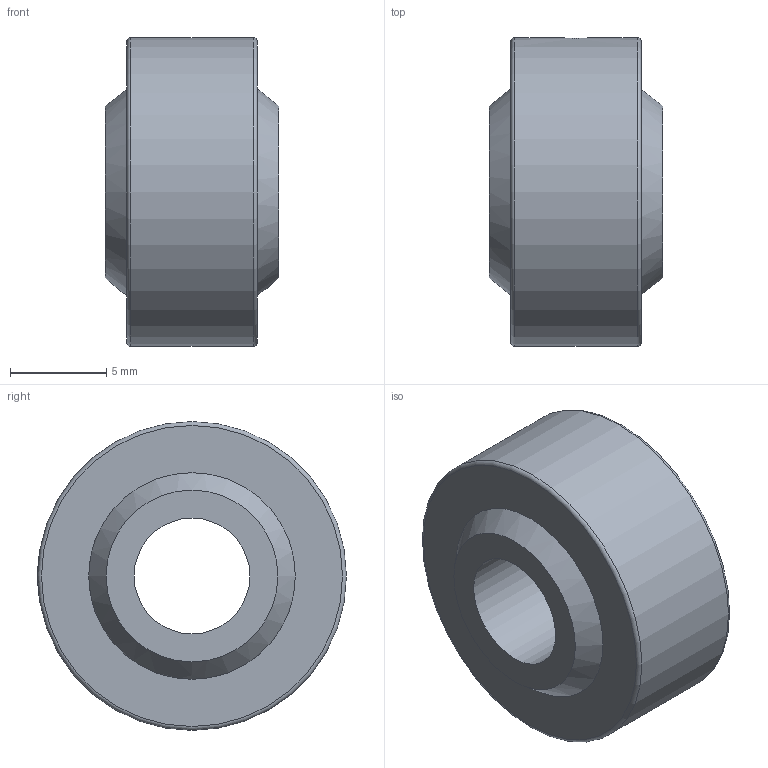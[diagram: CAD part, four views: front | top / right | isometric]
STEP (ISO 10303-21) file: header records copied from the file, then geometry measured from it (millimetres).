
FILE_DESCRIPTION( ( 'STEP AP203' ), '1' );
FILE_NAME( 'C:/Temp/Ganter_Step_05_03_2020/data/3_6/gn_648_8/gn_648_8_n/Ball joint GN 648.8-6-16-N.stp', '2020-03-12T14:14:23', ( 'License CC BY-ND 4.0' ), ( 'CADENAS' ), ' ', 'PARTsolutions', ' ' );
FILE_SCHEMA( ( 'CONFIG_CONTROL_DESIGN' ) );
Length unit declared in the file: millimetre
Products named in the file (3): Ball joint GN 648.8-6-16-N; _Ball joint GN 648.8-6-16-N-2; _Ball joint GN 648.8-6-16-N-1
Assembly tree (2 placements, depth 2):
  Ball joint GN 648.8-6-16-N
    _Ball joint GN 648.8-6-16-N-2
    _Ball joint GN 648.8-6-16-N-1
Bounding box: 9 x 16 x 16 mm (x, y, z)
Volume: 1271.3 mm3; surface area: 1421.1 mm2
Topology: 2 solids, 2 shells, 11 faces, 20 edges, 13 vertices
Faces by surface type: plane 4, cylinder 3, sphere 2, torus 2
Full cylindrical faces by diameter (mm): 1.6 x1, 6 x1, 16 x1
Entity records: 378 total; most frequent: CARTESIAN_POINT 65, DIRECTION 50, AXIS2_PLACEMENT_3D 25, EDGE_LOOP 24, ORIENTED_EDGE 24, FACE_OUTER_BOUND 18, CC_DESIGN_PERSON_AND_ORGANIZATION_ASSIGNMENT 13, EDGE_CURVE 12
